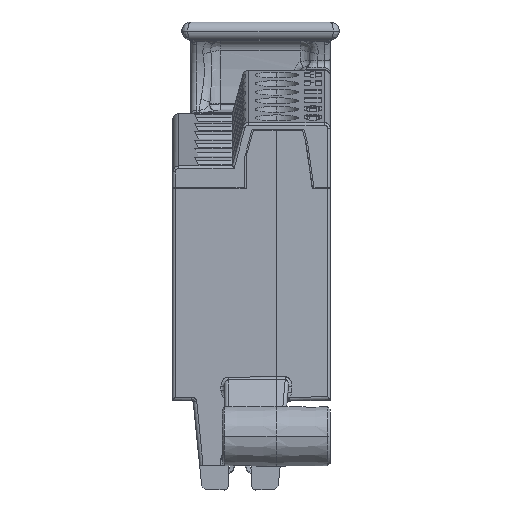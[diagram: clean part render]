
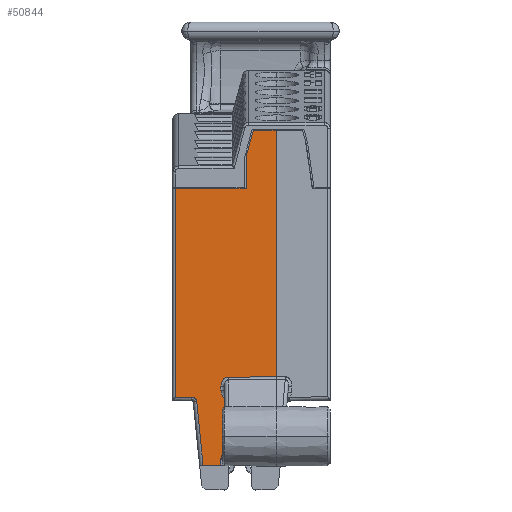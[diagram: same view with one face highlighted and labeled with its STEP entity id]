
A CAD part, front view. The second image highlights one B-rep face of the part: STEP entity #50844.
In plain terms, the highlighted planar face has unit normal (-0.018, -1, 0).
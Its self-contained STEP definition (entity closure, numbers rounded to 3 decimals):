
#4932=CARTESIAN_POINT('',(9.17,149.492,-13.478));
#4944=DIRECTION('',(0.259,-0.005,0.966));
#4945=VECTOR('',#4944,2.13);
#4946=CARTESIAN_POINT('',(12.799,149.428,12.344));
#4947=LINE('',#4946,#4945);
#4948=DIRECTION('',(-1.,0.017,-0.008));
#4949=VECTOR('',#4948,4.006);
#4950=CARTESIAN_POINT('',(15.25,149.385,-6.128));
#4951=LINE('',#4950,#4949);
#4952=CARTESIAN_POINT('',(11.245,149.455,-6.161));
#4953=CARTESIAN_POINT('',(11.2,149.456,-6.16));
#4954=CARTESIAN_POINT('',(11.11,149.458,-6.174));
#4955=CARTESIAN_POINT('',(10.958,149.46,-6.25));
#4956=CARTESIAN_POINT('',(10.853,149.462,-6.346));
#4957=CARTESIAN_POINT('',(10.74,149.464,-6.519));
#4958=CARTESIAN_POINT('',(10.679,149.465,-6.683));
#4959=CARTESIAN_POINT('',(10.659,149.466,-6.846));
#4960=CARTESIAN_POINT('',(10.655,149.466,-6.935));
#4962=DIRECTION('',(0.998,-0.017,-0.06));
#4963=VECTOR('',#4962,2.825);
#4964=CARTESIAN_POINT('',(11.234,149.455,-8.02));
#4965=LINE('',#4964,#4963);
#4966=DIRECTION('',(-0.999,0.017,-0.035));
#4967=VECTOR('',#4966,2.821);
#4968=CARTESIAN_POINT('',(14.053,149.406,-12.291));
#4969=LINE('',#4968,#4967);
#4970=CARTESIAN_POINT('',(11.234,149.455,-12.39));
#4971=CARTESIAN_POINT('',(11.171,149.457,-12.393));
#4972=CARTESIAN_POINT('',(11.051,149.459,-12.415));
#4973=CARTESIAN_POINT('',(10.886,149.462,-12.504));
#4974=CARTESIAN_POINT('',(10.758,149.464,-12.638));
#4975=CARTESIAN_POINT('',(10.674,149.465,-12.805));
#4976=CARTESIAN_POINT('',(10.656,149.466,-12.926));
#4977=CARTESIAN_POINT('',(10.655,149.466,-12.989));
#4979=DIRECTION('',(-1.,0.017,0.017));
#4980=VECTOR('',#4979,1.486);
#4981=CARTESIAN_POINT('',(10.655,149.466,-13.504));
#4982=LINE('',#4981,#4980);
#4983=DIRECTION('',(-0.1,0.002,0.995));
#4984=VECTOR('',#4983,5.304);
#4985=CARTESIAN_POINT('',(9.17,149.492,-13.478));
#4986=LINE('',#4985,#4984);
#4987=DIRECTION('',(0.,0.,-1.));
#4988=VECTOR('',#4987,17.405);
#4989=CARTESIAN_POINT('',(6.847,149.532,9.572));
#4990=LINE('',#4989,#4988);
#4991=DIRECTION('',(-1.,0.017,0.002));
#4992=VECTOR('',#4991,5.904);
#4993=CARTESIAN_POINT('',(12.75,149.429,9.557));
#4994=LINE('',#4993,#4992);
#5705=DIRECTION('',(-1.,0.017,0.));
#5706=VECTOR('',#5705,1.9);
#5707=CARTESIAN_POINT('',(15.25,149.385,14.402));
#5708=LINE('',#5707,#5706);
#19315=DIRECTION('',(0.,0.,1.));
#19316=VECTOR('',#19315,20.53);
#19317=CARTESIAN_POINT('',(15.25,149.385,
-6.128));
#19318=LINE('',#19317,#19316);
#20672=DIRECTION('',(1.,-0.017,-0.002));
#20673=VECTOR('',#20672,1.396);
#20674=CARTESIAN_POINT('',(6.847,149.532,
-7.834));
#20675=LINE('',#20674,#20673);
#20691=CARTESIAN_POINT('',(8.243,149.508,
-7.836));
#20692=CARTESIAN_POINT('',(8.291,149.507,
-7.836));
#20693=CARTESIAN_POINT('',(8.381,149.505,
-7.853));
#20694=CARTESIAN_POINT('',(8.519,149.503,
-7.932));
#20695=CARTESIAN_POINT('',(8.612,149.501,
-8.063));
#20696=CARTESIAN_POINT('',(8.638,149.501,
-8.153));
#20697=CARTESIAN_POINT('',(8.642,149.501,
-8.201));
#24377=DIRECTION('',(0.,0.,1.));
#24378=VECTOR('',#24377,0.515);
#24379=CARTESIAN_POINT('',(10.655,149.466,
-13.504));
#24380=LINE('',#24379,#24378);
#24436=DIRECTION('',(0.,0.,1.));
#24437=VECTOR('',#24436,4.101);
#24438=CARTESIAN_POINT('',(14.053,149.406,
-12.291));
#24439=LINE('',#24438,#24437);
#24467=CARTESIAN_POINT('',(11.234,149.455,
-8.02));
#24468=CARTESIAN_POINT('',(11.19,149.456,
-8.018));
#24469=CARTESIAN_POINT('',(11.103,149.458,
-8.001));
#24470=CARTESIAN_POINT('',(10.954,149.46,
-7.918));
#24471=CARTESIAN_POINT('',(10.85,149.462,
-7.822));
#24472=CARTESIAN_POINT('',(10.738,149.464,
-7.646));
#24473=CARTESIAN_POINT('',(10.679,149.465,
-7.481));
#24474=CARTESIAN_POINT('',(10.659,149.466,
-7.318));
#24475=CARTESIAN_POINT('',(10.655,149.466,
-7.229));
#24693=DIRECTION('',(0.,0.,1.));
#24694=VECTOR('',#24693,0.294);
#24695=CARTESIAN_POINT('',(10.655,149.466,
-7.229));
#24696=LINE('',#24695,#24694);
#33362=DIRECTION('',(-0.017,0.,-1.));
#33363=VECTOR('',#33362,2.787);
#33364=CARTESIAN_POINT('',(12.799,149.428,12.344));
#33365=LINE('',#33364,#33363);
#35645=VERTEX_POINT('',#4932);
#35657=CARTESIAN_POINT('',(12.75,149.429,9.557));
#35658=CARTESIAN_POINT('',(6.847,149.532,9.572));
#35659=VERTEX_POINT('',#35657);
#35660=VERTEX_POINT('',#35658);
#35661=CARTESIAN_POINT('',(12.799,149.428,12.344));
#35662=VERTEX_POINT('',#35661);
#35663=CARTESIAN_POINT('',(13.35,149.419,14.402));
#35664=VERTEX_POINT('',#35663);
#35665=CARTESIAN_POINT('',(15.25,149.385,
-6.128));
#35666=CARTESIAN_POINT('',(15.25,149.385,14.402));
#35667=VERTEX_POINT('',#35665);
#35668=VERTEX_POINT('',#35666);
#35669=CARTESIAN_POINT('',(11.245,149.455,
-6.161));
#35670=VERTEX_POINT('',#35669);
#35671=CARTESIAN_POINT('',(11.234,149.455,
-8.02));
#35672=CARTESIAN_POINT('',(14.053,149.406,
-8.19));
#35673=VERTEX_POINT('',#35671);
#35674=VERTEX_POINT('',#35672);
#35675=CARTESIAN_POINT('',(14.053,149.406,
-12.291));
#35676=CARTESIAN_POINT('',(11.234,149.455,
-12.39));
#35677=VERTEX_POINT('',#35675);
#35678=VERTEX_POINT('',#35676);
#35679=VERTEX_POINT('',#4977);
#35680=CARTESIAN_POINT('',(10.655,149.466,
-13.504));
#35681=VERTEX_POINT('',#35680);
#35682=CARTESIAN_POINT('',(8.642,149.501,
-8.201));
#35683=VERTEX_POINT('',#35682);
#35684=VERTEX_POINT('',#20691);
#35685=CARTESIAN_POINT('',(6.847,149.532,
-7.834));
#35686=VERTEX_POINT('',#35685);
#37005=VERTEX_POINT('',#24475);
#37024=CARTESIAN_POINT('',(10.655,149.466,
-6.935));
#37025=VERTEX_POINT('',#37024);
#50801=CARTESIAN_POINT('',(11.048,149.459,
0.449));
#50802=DIRECTION('',(0.017,1.,0.));
#50803=DIRECTION('',(0.,0.,1.));
#50804=AXIS2_PLACEMENT_3D('',#50801,#50802,#50803);
#50805=PLANE('',#50804);
#50807=ORIENTED_EDGE('',*,*,#50806,.F.);
#50809=ORIENTED_EDGE('',*,*,#50808,.F.);
#50811=ORIENTED_EDGE('',*,*,#50810,.F.);
#50813=ORIENTED_EDGE('',*,*,#50812,.T.);
#50815=ORIENTED_EDGE('',*,*,#50814,.F.);
#50817=ORIENTED_EDGE('',*,*,#50816,.F.);
#50819=ORIENTED_EDGE('',*,*,#50818,.T.);
#50821=ORIENTED_EDGE('',*,*,#50820,.T.);
#50823=ORIENTED_EDGE('',*,*,#50822,.F.);
#50825=ORIENTED_EDGE('',*,*,#50824,.F.);
#50827=ORIENTED_EDGE('',*,*,#50826,.T.);
#50829=ORIENTED_EDGE('',*,*,#50828,.F.);
#50831=ORIENTED_EDGE('',*,*,#50830,.T.);
#50833=ORIENTED_EDGE('',*,*,#50832,.T.);
#50835=ORIENTED_EDGE('',*,*,#50834,.F.);
#50836=ORIENTED_EDGE('',*,*,#50761,.T.);
#50837=ORIENTED_EDGE('',*,*,#50791,.T.);
#50839=ORIENTED_EDGE('',*,*,#50838,.F.);
#50841=ORIENTED_EDGE('',*,*,#50840,.F.);
#50842=EDGE_LOOP('',(#50807,#50809,#50811,#50813,#50815,#50817,#50819,#50821,
#50823,#50825,#50827,#50829,#50831,#50833,#50835,#50836,#50837,#50839,#50841));
#50843=FACE_OUTER_BOUND('',#50842,.F.);
#50844=ADVANCED_FACE('',(#50843),#50805,.F.);
#4961=B_SPLINE_CURVE_WITH_KNOTS('',3,(#4952,#4953,#4954,#4955,#4956,#4957,#4958,
#4959,#4960),.UNSPECIFIED.,.F.,.F.,(4,1,1,1,1,1,4),(0.,0.167,
0.333,0.5,0.667,0.833,1.),
.UNSPECIFIED.);
#4978=B_SPLINE_CURVE_WITH_KNOTS('',3,(#4970,#4971,#4972,#4973,#4974,#4975,#4976,
#4977),.UNSPECIFIED.,.F.,.F.,(4,1,1,1,1,4),(0.,0.2,0.4,0.6,0.8,1.),
.UNSPECIFIED.);
#20698=B_SPLINE_CURVE_WITH_KNOTS('',3,(#20691,#20692,#20693,#20694,#20695,
#20696,#20697),.UNSPECIFIED.,.F.,.F.,(4,1,1,1,4),(0.,0.25,0.5,0.75,
1.),.UNSPECIFIED.);
#24476=B_SPLINE_CURVE_WITH_KNOTS('',3,(#24467,#24468,#24469,#24470,#24471,
#24472,#24473,#24474,#24475),.UNSPECIFIED.,.F.,.F.,(4,1,1,1,1,1,4),(0.,
0.167,0.333,0.5,0.667,0.833,
1.),.UNSPECIFIED.);
#50761=EDGE_CURVE('',#35681,#35645,#4982,.T.);
#50791=EDGE_CURVE('',#35645,#35683,#4986,.T.);
#50806=EDGE_CURVE('',#35660,#35686,#4990,.T.);
#50808=EDGE_CURVE('',#35659,#35660,#4994,.T.);
#50810=EDGE_CURVE('',#35662,#35659,#33365,.T.);
#50812=EDGE_CURVE('',#35662,#35664,#4947,.T.);
#50814=EDGE_CURVE('',#35668,#35664,#5708,.T.);
#50816=EDGE_CURVE('',#35667,#35668,#19318,.T.);
#50818=EDGE_CURVE('',#35667,#35670,#4951,.T.);
#50820=EDGE_CURVE('',#35670,#37025,#4961,.T.);
#50822=EDGE_CURVE('',#37005,#37025,#24696,.T.);
#50824=EDGE_CURVE('',#35673,#37005,#24476,.T.);
#50826=EDGE_CURVE('',#35673,#35674,#4965,.T.);
#50828=EDGE_CURVE('',#35677,#35674,#24439,.T.);
#50830=EDGE_CURVE('',#35677,#35678,#4969,.T.);
#50832=EDGE_CURVE('',#35678,#35679,#4978,.T.);
#50834=EDGE_CURVE('',#35681,#35679,#24380,.T.);
#50838=EDGE_CURVE('',#35684,#35683,#20698,.T.);
#50840=EDGE_CURVE('',#35686,#35684,#20675,.T.);
